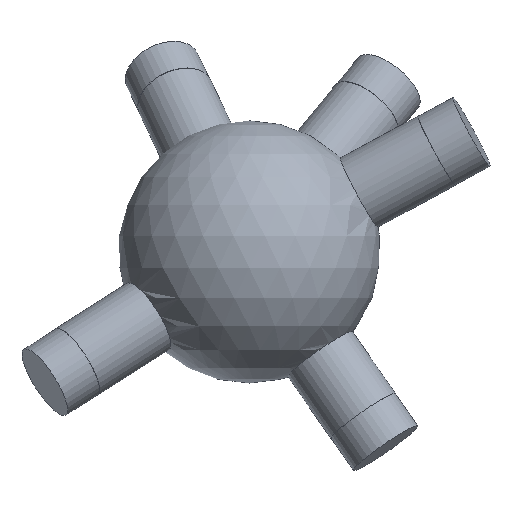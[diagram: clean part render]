
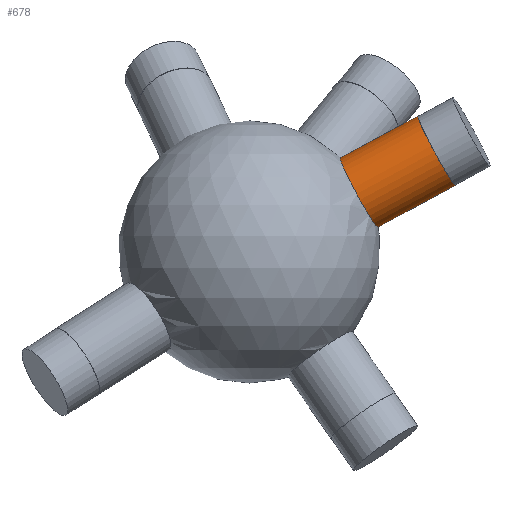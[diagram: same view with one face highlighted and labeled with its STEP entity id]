
A CAD part, left-side view. The second image highlights one B-rep face of the part: STEP entity #678.
In plain terms, the highlighted cylindrical face has radius 6 mm (diameter 12 mm), a full revolution.
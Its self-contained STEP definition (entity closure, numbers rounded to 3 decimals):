
#35 = SPHERICAL_SURFACE('',#36,20.);
#36 = AXIS2_PLACEMENT_3D('',#37,#38,#39);
#37 = CARTESIAN_POINT('',(0.,0.,0.));
#38 = DIRECTION('',(0.,0.,1.));
#39 = DIRECTION('',(1.,0.,-0.));
#330 = EDGE_CURVE('',#331,#331,#333,.T.);
#331 = VERTEX_POINT('',#332);
#332 = CARTESIAN_POINT('',(-1.302,-19.599,
    3.764));
#333 = SURFACE_CURVE('',#334,(#339,#408),.PCURVE_S1.);
#334 = CIRCLE('',#335,6.);
#335 = AXIS2_PLACEMENT_3D('',#336,#337,#338);
#336 = CARTESIAN_POINT('',(-1.302,-16.749,9.044)
  );
#337 = DIRECTION('',(-0.068,-0.878,0.474)
  );
#338 = DIRECTION('',(0.,-0.475,-0.88)
  );
#339 = PCURVE('',#35,#340);
#340 = DEFINITIONAL_REPRESENTATION('',(#341),#407);
#341 = B_SPLINE_CURVE_WITH_KNOTS('',8,(#342,#343,#344,#345,#346,#347,
    #348,#349,#350,#351,#352,#353,#354,#355,#356,#357,#358,#359,#360,
    #361,#362,#363,#364,#365,#366,#367,#368,#369,#370,#371,#372,#373,
    #374,#375,#376,#377,#378,#379,#380,#381,#382,#383,#384,#385,#386,
    #387,#388,#389,#390,#391,#392,#393,#394,#395,#396,#397,#398,#399,
    #400,#401,#402,#403,#404,#405,#406),.UNSPECIFIED.,.F.,.F.,(9,7,7,7,7
    ,7,7,7,7,9),(0.,0.785,1.473,2.074,
    2.6,3.06,3.463,4.168,
    5.226,6.283),.UNSPECIFIED.);
#342 = CARTESIAN_POINT('',(4.646,0.189));
#343 = CARTESIAN_POINT('',(4.676,0.19));
#344 = CARTESIAN_POINT('',(4.706,0.194));
#345 = CARTESIAN_POINT('',(4.735,0.201));
#346 = CARTESIAN_POINT('',(4.764,0.211));
#347 = CARTESIAN_POINT('',(4.792,0.223));
#348 = CARTESIAN_POINT('',(4.818,0.239));
#349 = CARTESIAN_POINT('',(4.843,0.256));
#350 = CARTESIAN_POINT('',(4.885,0.293));
#351 = CARTESIAN_POINT('',(4.904,0.312));
#352 = CARTESIAN_POINT('',(4.92,0.333));
#353 = CARTESIAN_POINT('',(4.935,0.354));
#354 = CARTESIAN_POINT('',(4.948,0.377));
#355 = CARTESIAN_POINT('',(4.959,0.401));
#356 = CARTESIAN_POINT('',(4.968,0.426));
#357 = CARTESIAN_POINT('',(4.979,0.473));
#358 = CARTESIAN_POINT('',(4.983,0.496));
#359 = CARTESIAN_POINT('',(4.984,0.518));
#360 = CARTESIAN_POINT('',(4.984,0.541));
#361 = CARTESIAN_POINT('',(4.981,0.563));
#362 = CARTESIAN_POINT('',(4.976,0.586));
#363 = CARTESIAN_POINT('',(4.969,0.608));
#364 = CARTESIAN_POINT('',(4.95,0.647));
#365 = CARTESIAN_POINT('',(4.939,0.665));
#366 = CARTESIAN_POINT('',(4.927,0.682));
#367 = CARTESIAN_POINT('',(4.912,0.698));
#368 = CARTESIAN_POINT('',(4.896,0.714));
#369 = CARTESIAN_POINT('',(4.877,0.728));
#370 = CARTESIAN_POINT('',(4.857,0.741));
#371 = CARTESIAN_POINT('',(4.816,0.762));
#372 = CARTESIAN_POINT('',(4.795,0.771));
#373 = CARTESIAN_POINT('',(4.773,0.779));
#374 = CARTESIAN_POINT('',(4.751,0.786));
#375 = CARTESIAN_POINT('',(4.727,0.791));
#376 = CARTESIAN_POINT('',(4.703,0.795));
#377 = CARTESIAN_POINT('',(4.679,0.797));
#378 = CARTESIAN_POINT('',(4.632,0.799));
#379 = CARTESIAN_POINT('',(4.61,0.799));
#380 = CARTESIAN_POINT('',(4.589,0.797));
#381 = CARTESIAN_POINT('',(4.567,0.795));
#382 = CARTESIAN_POINT('',(4.546,0.791));
#383 = CARTESIAN_POINT('',(4.526,0.787));
#384 = CARTESIAN_POINT('',(4.506,0.781));
#385 = CARTESIAN_POINT('',(4.454,0.763));
#386 = CARTESIAN_POINT('',(4.423,0.749));
#387 = CARTESIAN_POINT('',(4.395,0.732));
#388 = CARTESIAN_POINT('',(4.37,0.713));
#389 = CARTESIAN_POINT('',(4.349,0.691));
#390 = CARTESIAN_POINT('',(4.331,0.668));
#391 = CARTESIAN_POINT('',(4.318,0.644));
#392 = CARTESIAN_POINT('',(4.291,0.582));
#393 = CARTESIAN_POINT('',(4.283,0.542));
#394 = CARTESIAN_POINT('',(4.282,0.502));
#395 = CARTESIAN_POINT('',(4.287,0.462));
#396 = CARTESIAN_POINT('',(4.298,0.423));
#397 = CARTESIAN_POINT('',(4.315,0.385));
#398 = CARTESIAN_POINT('',(4.336,0.351));
#399 = CARTESIAN_POINT('',(4.388,0.288));
#400 = CARTESIAN_POINT('',(4.417,0.26));
#401 = CARTESIAN_POINT('',(4.451,0.236));
#402 = CARTESIAN_POINT('',(4.487,0.216));
#403 = CARTESIAN_POINT('',(4.525,0.202));
#404 = CARTESIAN_POINT('',(4.565,0.192));
#405 = CARTESIAN_POINT('',(4.606,0.188));
#406 = CARTESIAN_POINT('',(4.646,0.189));
#407 = ( GEOMETRIC_REPRESENTATION_CONTEXT(2) 
PARAMETRIC_REPRESENTATION_CONTEXT() REPRESENTATION_CONTEXT('2D SPACE',''
  ) );
#408 = PCURVE('',#409,#414);
#409 = CYLINDRICAL_SURFACE('',#410,6.);
#410 = AXIS2_PLACEMENT_3D('',#411,#412,#413);
#411 = CARTESIAN_POINT('',(0.,0.,0.));
#412 = DIRECTION('',(-0.068,-0.878,0.474)
  );
#413 = DIRECTION('',(0.,-0.475,-0.88)
  );
#414 = DEFINITIONAL_REPRESENTATION('',(#415),#419);
#415 = LINE('',#416,#417);
#416 = CARTESIAN_POINT('',(0.,19.079));
#417 = VECTOR('',#418,1.);
#418 = DIRECTION('',(1.,0.));
#419 = ( GEOMETRIC_REPRESENTATION_CONTEXT(2) 
PARAMETRIC_REPRESENTATION_CONTEXT() REPRESENTATION_CONTEXT('2D SPACE',''
  ) );
#678 = ADVANCED_FACE('',(#679),#409,.T.);
#679 = FACE_BOUND('',#680,.T.);
#680 = EDGE_LOOP('',(#681,#704,#731,#732));
#681 = ORIENTED_EDGE('',*,*,#682,.T.);
#682 = EDGE_CURVE('',#331,#683,#685,.T.);
#683 = VERTEX_POINT('',#684);
#684 = CARTESIAN_POINT('',(-2.224,-31.46,
    10.169));
#685 = SEAM_CURVE('',#686,(#690,#697),.PCURVE_S1.);
#686 = LINE('',#687,#688);
#687 = CARTESIAN_POINT('',(0.,-2.851,
    -5.279));
#688 = VECTOR('',#689,1.);
#689 = DIRECTION('',(-0.068,-0.878,0.474)
  );
#690 = PCURVE('',#409,#691);
#691 = DEFINITIONAL_REPRESENTATION('',(#692),#696);
#692 = LINE('',#693,#694);
#693 = CARTESIAN_POINT('',(6.283,-0.));
#694 = VECTOR('',#695,1.);
#695 = DIRECTION('',(0.,1.));
#696 = ( GEOMETRIC_REPRESENTATION_CONTEXT(2) 
PARAMETRIC_REPRESENTATION_CONTEXT() REPRESENTATION_CONTEXT('2D SPACE',''
  ) );
#697 = PCURVE('',#409,#698);
#698 = DEFINITIONAL_REPRESENTATION('',(#699),#703);
#699 = LINE('',#700,#701);
#700 = CARTESIAN_POINT('',(0.,-0.));
#701 = VECTOR('',#702,1.);
#702 = DIRECTION('',(0.,1.));
#703 = ( GEOMETRIC_REPRESENTATION_CONTEXT(2) 
PARAMETRIC_REPRESENTATION_CONTEXT() REPRESENTATION_CONTEXT('2D SPACE',''
  ) );
#704 = ORIENTED_EDGE('',*,*,#705,.F.);
#705 = EDGE_CURVE('',#683,#683,#706,.T.);
#706 = SURFACE_CURVE('',#707,(#712,#719),.PCURVE_S1.);
#707 = CIRCLE('',#708,6.);
#708 = AXIS2_PLACEMENT_3D('',#709,#710,#711);
#709 = CARTESIAN_POINT('',(-2.224,-28.609,
    15.448));
#710 = DIRECTION('',(-0.068,-0.878,0.474)
  );
#711 = DIRECTION('',(0.,-0.475,-0.88)
  );
#712 = PCURVE('',#409,#713);
#713 = DEFINITIONAL_REPRESENTATION('',(#714),#718);
#714 = LINE('',#715,#716);
#715 = CARTESIAN_POINT('',(0.,32.589));
#716 = VECTOR('',#717,1.);
#717 = DIRECTION('',(1.,0.));
#718 = ( GEOMETRIC_REPRESENTATION_CONTEXT(2) 
PARAMETRIC_REPRESENTATION_CONTEXT() REPRESENTATION_CONTEXT('2D SPACE',''
  ) );
#719 = PCURVE('',#720,#725);
#720 = PLANE('',#721);
#721 = AXIS2_PLACEMENT_3D('',#722,#723,#724);
#722 = CARTESIAN_POINT('',(-2.224,-28.609,
    15.448));
#723 = DIRECTION('',(-0.068,-0.878,0.474)
  );
#724 = DIRECTION('',(0.,-0.475,-0.88)
  );
#725 = DEFINITIONAL_REPRESENTATION('',(#726),#730);
#726 = CIRCLE('',#727,6.);
#727 = AXIS2_PLACEMENT_2D('',#728,#729);
#728 = CARTESIAN_POINT('',(0.,0.));
#729 = DIRECTION('',(1.,0.));
#730 = ( GEOMETRIC_REPRESENTATION_CONTEXT(2) 
PARAMETRIC_REPRESENTATION_CONTEXT() REPRESENTATION_CONTEXT('2D SPACE',''
  ) );
#731 = ORIENTED_EDGE('',*,*,#682,.F.);
#732 = ORIENTED_EDGE('',*,*,#330,.T.);
